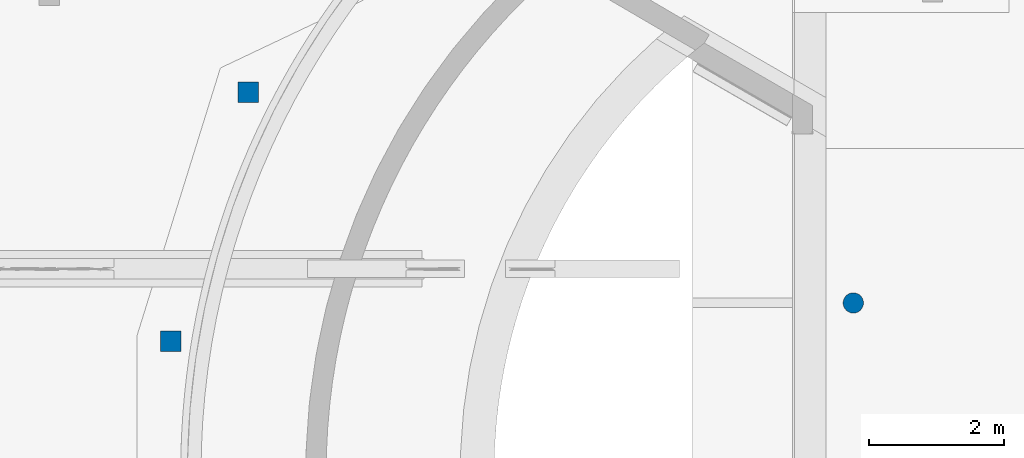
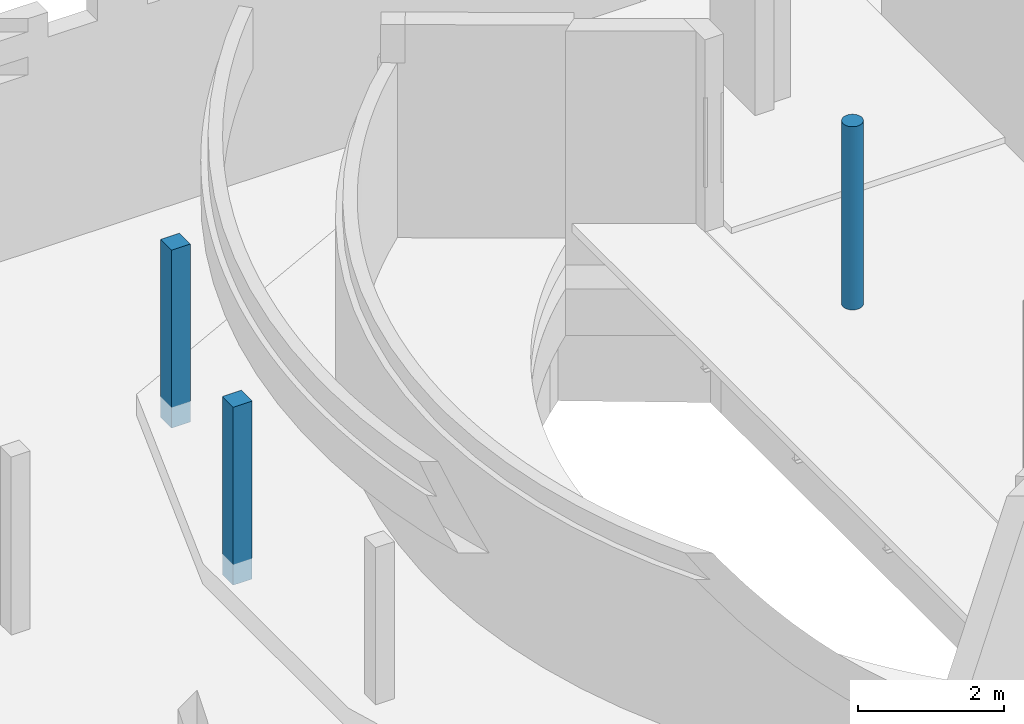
# One storey, part 5 of 42: 3 columns.
"""IFC2X3 building model written with IfcOpenShell, lengths in millimetres."""

import ifcopenshell
import ifcopenshell.guid

model = None  # the IFC model being written
_history = None  # IfcOwnerHistory: only IFC2X3 demands one
_inside = {}  # id of a spatial element -> (the spatial element, [elements in it])
_under = {}  # id of a project, library or spatial element -> (it, [spatial elements below it])
_declared = {}  # id of a project -> (the project, [libraries it declares])
_typed = {}  # id of a type object -> (the type object, [elements of that type])
_made_of = {}  # id of a material, layer set ... -> (it, [elements and type objects made of it])


def new_model(schema):
    """Start an empty IFC model of exactly this schema.

    Asked for "IFC4X3", IfcOpenShell would pick the latest addendum, in which some entities
    have other attributes; the version numbers below select the first issue.
    IFC2X3 requires an IfcOwnerHistory on every rooted entity: one is made here for all.
    """
    global model, _history
    if schema == "IFC4X3":
        model = ifcopenshell.file(schema_version=(4, 3, 0, 0))
    else:
        model = ifcopenshell.file(schema=schema)
    _inside.clear()
    _under.clear()
    _declared.clear()
    _typed.clear()
    _made_of.clear()
    _history = None
    if model.schema == "IFC2X3":
        org = make("IfcOrganization", Name="unknown")
        user = make(
            "IfcPersonAndOrganization",
            ThePerson=make("IfcPerson", FamilyName="unknown"),
            TheOrganization=org,
        )
        app = make(
            "IfcApplication",
            ApplicationDeveloper=org,
            Version="unknown",
            ApplicationFullName="unknown",
            ApplicationIdentifier="unknown",
        )
        _history = make(
            "IfcOwnerHistory",
            OwningUser=user,
            OwningApplication=app,
            ChangeAction="ADDED",
            CreationDate=0,
        )
    return model


def make(cls, **values):
    """One entity of the class cls with the attributes given. An attribute that is None is left unset."""
    return model.create_entity(
        cls, **{name: value for name, value in values.items() if value is not None}
    )


def entity(cls, *values):
    """Any entity or typed value of the class cls, its attributes in the order of the schema. None: left unset."""
    e = model.create_entity(cls)
    for i, value in enumerate(values):
        if value is not None:
            e[i] = value
    return e


def rooted(cls, **values):
    """An entity with a GlobalId (a new one), such as an element, a storey or a relation."""
    return make(cls, GlobalId=ifcopenshell.guid.new(), OwnerHistory=_history, **values)


def si_unit(unit_type, name, prefix=None):
    """IfcSIUnit, for example si_unit("LENGTHUNIT", "METRE", prefix="MILLI")."""
    return make("IfcSIUnit", UnitType=unit_type, Prefix=prefix, Name=name)


def converted_unit(unit_type, name, factor, base, dimensions=None, offset=None):
    """IfcConversionBasedUnit, such as the inch: factor (a typed value) times the base unit."""
    return make(
        "IfcConversionBasedUnit"
        if offset is None
        else "IfcConversionBasedUnitWithOffset",
        ConversionOffset=offset,
        Dimensions=None
        if dimensions is None
        else entity("IfcDimensionalExponents", *dimensions),
        UnitType=unit_type,
        Name=name,
        ConversionFactor=make(
            "IfcMeasureWithUnit", ValueComponent=factor, UnitComponent=base
        ),
    )


def derived_unit(unit_type, elements):
    """IfcDerivedUnit: a product of units, each with its exponent."""
    return make(
        "IfcDerivedUnit",
        Elements=[
            make("IfcDerivedUnitElement", Unit=unit, Exponent=power)
            for unit, power in elements
        ],
        UnitType=unit_type,
    )


def assignment(units):
    """IfcUnitAssignment: the units of a project."""
    return None if units is None else make("IfcUnitAssignment", Units=units)


def point(xyz):
    """IfcCartesianPoint."""
    return None if xyz is None else make("IfcCartesianPoint", Coordinates=xyz)


def direction(xyz):
    """IfcDirection."""
    return None if xyz is None else make("IfcDirection", DirectionRatios=xyz)


def frame(location, z_axis=None, x_axis=None):
    """IfcAxis2Placement3D, a coordinate frame: its origin and axes. An axis left out is left unset."""
    return make(
        "IfcAxis2Placement3D",
        Location=point(location),
        Axis=direction(z_axis),
        RefDirection=direction(x_axis),
    )


def frame_2d(location, x_axis=None):
    """IfcAxis2Placement2D, a coordinate frame in the plane: its origin and x axis."""
    return make(
        "IfcAxis2Placement2D", Location=point(location), RefDirection=direction(x_axis)
    )


def origin():
    """The frame at (0, 0, 0) with its axes left unset."""
    return frame((0.0, 0.0, 0.0))


def origin_2d_with_axis():
    """The frame at (0, 0) in the plane with the x axis (1, 0) written out."""
    return frame_2d((0.0, 0.0), x_axis=(1.0, 0.0))


def place(relative_to, where):
    """IfcLocalPlacement: puts the frame where relative to a parent placement (None: the world)."""
    return make(
        "IfcLocalPlacement", PlacementRelTo=relative_to, RelativePlacement=where
    )


def context(
    kind, dimensions, precision=None, world=None, true_north=None, identifier=None
):
    """IfcGeometricRepresentationContext, for example the 3D "Model" context."""
    return make(
        "IfcGeometricRepresentationContext",
        ContextIdentifier=identifier,
        ContextType=kind,
        CoordinateSpaceDimension=dimensions,
        Precision=precision,
        WorldCoordinateSystem=world,
        TrueNorth=true_north,
    )


def subcontext(parent, identifier, kind, view, scale=None):
    """IfcGeometricRepresentationSubContext, for example "Body" below "Model"."""
    return make(
        "IfcGeometricRepresentationSubContext",
        ContextIdentifier=identifier,
        ContextType=kind,
        ParentContext=parent,
        TargetScale=scale,
        TargetView=view,
    )


def project(units=None, contexts=None):
    """IfcProject with its units and contexts."""
    return rooted(
        "IfcProject",
        Name="project",
        RepresentationContexts=contexts,
        UnitsInContext=assignment(units),
    )


def spatial(cls, under=None, at=None, **own):
    """A site, building, storey or space (cls), placed at a placement, below another one or the project."""
    s = rooted(cls, ObjectPlacement=at, **own)
    if under is not None:
        _under.setdefault(under.id(), (under, []))[1].append(s)
    return s


def profile(cls, at=None, kind="AREA", **sizes):
    """A parametric profile (cls). Its sizes go by their IFC names, for example OverallWidth=200.0."""
    return make(cls, ProfileType=kind, Position=at, **sizes)


def rectangle(**sizes):
    """IfcRectangleProfileDef."""
    return profile("IfcRectangleProfileDef", **sizes)


def circle(**sizes):
    """IfcCircleProfileDef."""
    return profile("IfcCircleProfileDef", **sizes)


def extrude(swept, where, along, depth):
    """IfcExtrudedAreaSolid: the profile swept, set in the frame where, extruded along a direction by depth."""
    return make(
        "IfcExtrudedAreaSolid",
        SweptArea=swept,
        Position=where,
        ExtrudedDirection=direction(along),
        Depth=depth,
    )


def shape(context_of_items, identifier, shape_type, items):
    """IfcShapeRepresentation: the items that make up one representation, for example the "Body"."""
    return make(
        "IfcShapeRepresentation",
        ContextOfItems=context_of_items,
        RepresentationIdentifier=identifier,
        RepresentationType=shape_type,
        Items=items,
    )


def source(mapping_origin, context_of_items, identifier, shape_type, items):
    """IfcRepresentationMap: a shape defined once, which mapped items show again and again."""
    return make(
        "IfcRepresentationMap",
        MappingOrigin=mapping_origin,
        MappedRepresentation=shape(context_of_items, identifier, shape_type, items),
    )


def transform(
    local_origin,
    x_axis=None,
    y_axis=None,
    z_axis=None,
    scale=None,
    scale2=None,
    scale3=None,
    uniform=True,
):
    """IfcCartesianTransformationOperator3D, or its non-uniform kind. x_axis, y_axis, z_axis: its Axis1, 2, 3."""
    if uniform:
        return make(
            "IfcCartesianTransformationOperator3D",
            Axis1=direction(x_axis),
            Axis2=direction(y_axis),
            LocalOrigin=point(local_origin),
            Scale=scale,
            Axis3=direction(z_axis),
        )
    return make(
        "IfcCartesianTransformationOperator3DnonUniform",
        Axis1=direction(x_axis),
        Axis2=direction(y_axis),
        LocalOrigin=point(local_origin),
        Scale=scale,
        Axis3=direction(z_axis),
        Scale2=scale2,
        Scale3=scale3,
    )


def mapped(mapping_source, mapping_target):
    """IfcMappedItem: shows the shape of a source again, moved by a transform."""
    return make(
        "IfcMappedItem", MappingSource=mapping_source, MappingTarget=mapping_target
    )


def material(Name=None, Category=None):
    """IfcMaterial."""
    return make("IfcMaterial", Name=Name, Category=Category)


def made_of(thing, what):
    """Note that an element or type object is made of a material, layer set ...; save() writes the relation."""
    if what is not None:
        _made_of.setdefault(what.id(), (what, []))[1].append(thing)
    return thing


def type_object(cls, material=None, **own):
    """A type object (cls), such as IfcWallType, which elements share."""
    return made_of(rooted(cls, **own), material)


def type_shapes(of_type, sources):
    """Give a type object the sources (RepresentationMaps) that its elements show as mapped items."""
    of_type.RepresentationMaps = sources


def element(
    cls,
    number,
    at=None,
    inside=None,
    cuts=None,
    type_object=None,
    material=None,
    context=None,
    identifier="Body",
    shape_type=None,
    held_by="IfcProductDefinitionShape",
    body=None,
    shapes=None,
    **own,
):
    """One element of the class cls, such as IfcWall. Its Tag is "e" and its number.

    at: its placement. inside: the storey or other place that contains it. cuts: it is an
    opening in that element (IfcRelVoidsElement). A single representation is given by context,
    identifier, shape_type and body (its items); several are given by shapes. held_by: the class
    of the entity that holds the representations. save() writes the other relations.
    """
    e = rooted(cls, Tag="e%d" % number, ObjectPlacement=at, **own)
    if body is not None:
        shapes = [shape(context, identifier, shape_type, body)]
    if shapes is not None:
        e.Representation = make(held_by, Representations=shapes)
    if inside is not None:
        _inside.setdefault(inside.id(), (inside, []))[1].append(e)
    if cuts is not None:
        rooted(
            "IfcRelVoidsElement", RelatingBuildingElement=cuts, RelatedOpeningElement=e
        )
    if type_object is not None:
        _typed.setdefault(type_object.id(), (type_object, []))[1].append(e)
    return made_of(e, material)


def aggregate(whole, parts):
    """IfcRelAggregates: a whole, such as a stair, and the parts it consists of."""
    return rooted("IfcRelAggregates", RelatingObject=whole, RelatedObjects=parts)


def save(model, path):
    """Write the relations noted so far, then the file.

    IfcRelAggregates (storeys below a building ...), IfcRelContainedInSpatialStructure (elements
    in a storey), IfcRelDefinesByType, IfcRelAssociatesMaterial and IfcRelDeclares: one each for
    every whole, place, type object, material and project.
    """
    for whole, parts in _under.values():
        aggregate(whole, parts)
    for where, things in _inside.values():
        rooted(
            "IfcRelContainedInSpatialStructure",
            RelatedElements=things,
            RelatingStructure=where,
        )
    for kind, things in _typed.values():
        rooted("IfcRelDefinesByType", RelatedObjects=things, RelatingType=kind)
    for what, things in _made_of.values():
        rooted("IfcRelAssociatesMaterial", RelatedObjects=things, RelatingMaterial=what)
    for by, libraries in _declared.values():
        rooted("IfcRelDeclares", RelatingContext=by, RelatedDefinitions=libraries)
    model.write(path)


model = new_model("IFC2X3")

# Units and contexts
model_context = context("Model", 3, precision=0.01, world=origin(), true_north=direction((6.12303176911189e-17, 1.0)))
body_context = subcontext(model_context, "Body", "Model", "MODEL_VIEW")
ifc_project = project(units=[si_unit("LENGTHUNIT", "METRE", prefix="MILLI"), si_unit("AREAUNIT", "SQUARE_METRE", prefix="MILLI"), si_unit("VOLUMEUNIT", "CUBIC_METRE"), converted_unit("PLANEANGLEUNIT", "DEGREE", entity("IfcRatioMeasure", 0.0174532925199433), si_unit("PLANEANGLEUNIT", "RADIAN"), dimensions=[0, 0, 0, 0, 0, 0, 0]), si_unit("MASSUNIT", "GRAM", prefix="KILO"), derived_unit("MASSDENSITYUNIT", [(si_unit("MASSUNIT", "GRAM", prefix="KILO"), 1), (si_unit("LENGTHUNIT", "METRE"), -3)]), derived_unit("MOMENTOFINERTIAUNIT", [(si_unit("LENGTHUNIT", "METRE"), 4)]), si_unit("TIMEUNIT", "SECOND"), si_unit("FREQUENCYUNIT", "HERTZ"), si_unit("THERMODYNAMICTEMPERATUREUNIT", "DEGREE_CELSIUS"), derived_unit("THERMALTRANSMITTANCEUNIT", [(si_unit("MASSUNIT", "GRAM", prefix="KILO"), 1), (si_unit("THERMODYNAMICTEMPERATUREUNIT", "KELVIN"), -1), (si_unit("TIMEUNIT", "SECOND"), -3)]), derived_unit("VOLUMETRICFLOWRATEUNIT", [(si_unit("LENGTHUNIT", "METRE"), 3), (si_unit("TIMEUNIT", "SECOND"), -1)]), si_unit("ELECTRICCURRENTUNIT", "AMPERE"), si_unit("ELECTRICVOLTAGEUNIT", "VOLT"), si_unit("POWERUNIT", "WATT"), si_unit("FORCEUNIT", "NEWTON", prefix="KILO"), si_unit("ILLUMINANCEUNIT", "LUX"), si_unit("LUMINOUSFLUXUNIT", "LUMEN"), si_unit("LUMINOUSINTENSITYUNIT", "CANDELA"), derived_unit("USERDEFINED", [(si_unit("MASSUNIT", "GRAM", prefix="KILO"), -1), (si_unit("LENGTHUNIT", "METRE"), -2), (si_unit("TIMEUNIT", "SECOND"), 3), (si_unit("LUMINOUSFLUXUNIT", "LUMEN"), 1)]), derived_unit("LINEARVELOCITYUNIT", [(si_unit("LENGTHUNIT", "METRE"), 1), (si_unit("TIMEUNIT", "SECOND"), -1)]), si_unit("PRESSUREUNIT", "PASCAL"), derived_unit("USERDEFINED", [(si_unit("LENGTHUNIT", "METRE"), -2), (si_unit("MASSUNIT", "GRAM", prefix="KILO"), 1), (si_unit("TIMEUNIT", "SECOND"), -2)]), derived_unit("LINEARFORCEUNIT", [(si_unit("MASSUNIT", "GRAM", prefix="KILO"), 1), (si_unit("LENGTHUNIT", "METRE"), 1), (si_unit("TIMEUNIT", "SECOND"), -2), (si_unit("LENGTHUNIT", "METRE"), -1)]), derived_unit("PLANARFORCEUNIT", [(si_unit("MASSUNIT", "GRAM", prefix="KILO"), 1), (si_unit("LENGTHUNIT", "METRE"), 1), (si_unit("TIMEUNIT", "SECOND"), -2), (si_unit("LENGTHUNIT", "METRE"), -2)])], contexts=[model_context])

# Site, building, storey
site_placement = place(None, origin())
site = spatial("IfcSite", under=ifc_project, at=site_placement, Name="Theater aan de Parade", CompositionType="ELEMENT")
building_placement = place(site_placement, origin())
building = spatial("IfcBuilding", under=site, at=building_placement, Name="Theater aan de Parade", CompositionType="ELEMENT")
storey_placement = place(building_placement, frame((0.0, 0.0, -3300.0)))
storey = spatial("IfcBuildingStorey", under=building, at=storey_placement, Name="-1 kelder", CompositionType="ELEMENT", Elevation=-3300.0)

# Columns
ifc_material = material(Name="00_PBT_MAT_beton t.p.g.")
column_type_1 = type_object("IfcColumnType", Name="28_PBT_SC_beton_rond:Ø300_bestaand", PredefinedType="COLUMN", material=ifc_material)
shared_shape_1 = source(origin(), body_context, "Body", "SweptSolid", [
    extrude(circle(Radius=150.000000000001, at=origin_2d_with_axis()), frame((69620.0, 34970.0, -2640.0), z_axis=(0.0, 0.0, 1.0), x_axis=(-1.0, 0.0, 0.0)), (0.0, 0.0, 1.0), 3070.0000000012),
])
type_shapes(column_type_1, [shared_shape_1])
column_1_placement = place(storey_placement, frame((0.0, 0.0, 3300.0)))
element("IfcColumn", 1, at=column_1_placement, inside=storey, type_object=column_type_1, material=ifc_material, Name="28_PBT_SC_beton_rond:Ø300_bestaand", ObjectType="28_PBT_SC_beton_rond:Ø300_bestaand", context=body_context, shape_type="MappedRepresentation", body=[
    mapped(shared_shape_1, transform((0.0, 0.0, 0.0), scale=1.0)),
])
column_type_2 = type_object("IfcColumnType", Name="28_PBT_SC_beton_rechthoekig:300x300_bestaand", PredefinedType="COLUMN", material=ifc_material)
shared_shape_2 = source(origin(), body_context, "Body", "SweptSolid", [
    extrude(rectangle(XDim=300.000000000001, YDim=300.000000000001, at=origin_2d_with_axis()), frame((60690.0, 38080.0, -3340.0), z_axis=(0.0, 0.0, 1.0), x_axis=(0.0, -1.0, 0.0)), (0.0, 0.0, 1.0), 2980.0),
])
type_shapes(column_type_2, [shared_shape_2])
column_2_placement = place(storey_placement, frame((0.0, 0.0, 3300.0)))
element("IfcColumn", 2, at=column_2_placement, inside=storey, type_object=column_type_2, material=ifc_material, Name="28_PBT_SC_beton_rechthoekig:300x300_bestaand", ObjectType="28_PBT_SC_beton_rechthoekig:300x300_bestaand", context=body_context, shape_type="MappedRepresentation", body=[
    mapped(shared_shape_2, transform((0.0, 0.0, 0.0), scale=1.0)),
])
column_type_3 = type_object("IfcColumnType", Name="28_PBT_SC_beton_rechthoekig:300x300_bestaand", PredefinedType="COLUMN", material=ifc_material)
shared_shape_3 = source(origin(), body_context, "Body", "SweptSolid", [
    extrude(rectangle(XDim=300.000000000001, YDim=300.000000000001, at=origin_2d_with_axis()), frame((59545.0, 34403.0, -3340.0), z_axis=(0.0, 0.0, 1.0), x_axis=(0.0, -1.0, 0.0)), (0.0, 0.0, 1.0), 2980.0),
])
type_shapes(column_type_3, [shared_shape_3])
column_3_placement = place(storey_placement, frame((0.0, 0.0, 3300.0)))
element("IfcColumn", 3, at=column_3_placement, inside=storey, type_object=column_type_3, material=ifc_material, Name="28_PBT_SC_beton_rechthoekig:300x300_bestaand", ObjectType="28_PBT_SC_beton_rechthoekig:300x300_bestaand", context=body_context, shape_type="MappedRepresentation", body=[
    mapped(shared_shape_3, transform((0.0, 0.0, 0.0), scale=1.0)),
])

save(model, "model.ifc")
